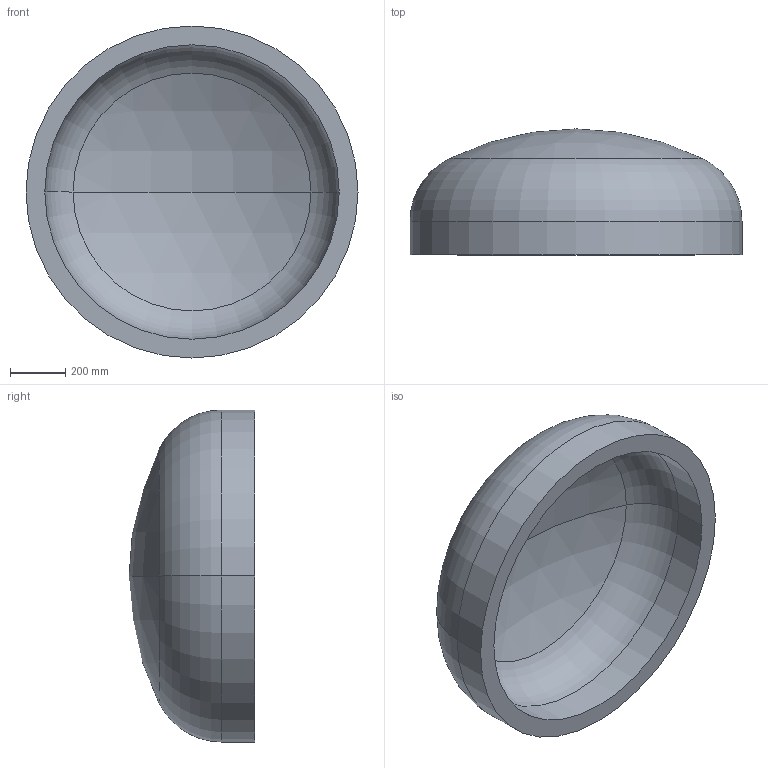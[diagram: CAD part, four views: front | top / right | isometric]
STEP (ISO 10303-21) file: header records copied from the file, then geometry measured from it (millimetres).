
FILE_DESCRIPTION (( 'STEP AP203' ), '1' );
FILE_NAME ('DIN 28013 Korbbogenform_-_Boden DIN 28013 - 1200 x 120 - I - s=68.step', '2016-07-01T09:33:24', ( '' ), ( '' ), 'SwSTEP 2.0', 'SolidWorks 2013', '' );
FILE_SCHEMA (( 'CONFIG_CONTROL_DESIGN' ));
Length unit declared in the file: millimetre
Products named in the file (1): DIN 28013 Korbbogenform_-_Boden DIN 28013 - 1200 x 120 - I - s=68
Bounding box: 1200 x 455.02 x 1200 mm (x, y, z)
Volume: 128113657.1 mm3; surface area: 4019559.6 mm2
Topology: 1 solids, 1 shells, 13 faces, 24 edges, 14 vertices
Faces by surface type: torus 4, cylinder 4, sphere 4, plane 1
Entity records: 407 total; most frequent: DIRECTION 72, CARTESIAN_POINT 52, ORIENTED_EDGE 48, AXIS2_PLACEMENT_3D 34, EDGE_CURVE 24, CIRCLE 20, VERTEX_POINT 14, EDGE_LOOP 14
